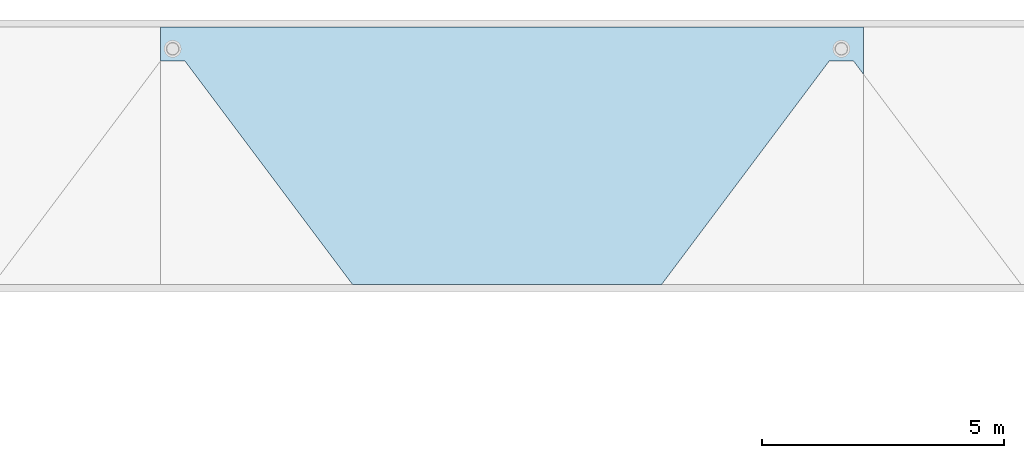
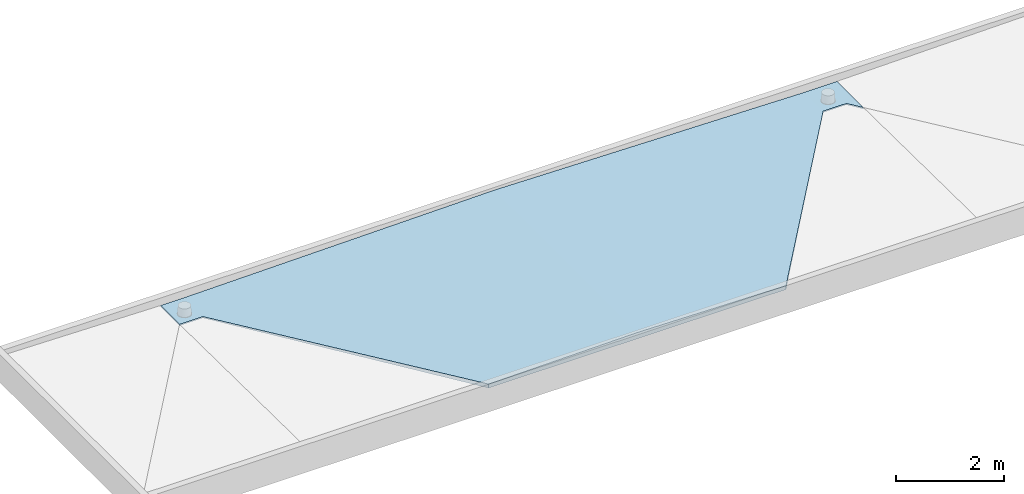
# One storey, part 31 of 33: 1 roof.
"""IFC2X3 building model written with IfcOpenShell, lengths in millimetres."""

from ifc_helpers import new_model, entity, si_unit, converted_unit, derived_unit, direction, frame, origin, place, context, subcontext, project, spatial, faceted_brep, material, element, save


model = new_model("IFC2X3")

# Units and contexts
model_context = context("Model", 3, precision=0.01, world=origin(), true_north=direction((6.12303176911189e-17, 1.0)))
body_context = subcontext(model_context, "Body", "Model", "MODEL_VIEW")
ifc_project = project(units=[si_unit("LENGTHUNIT", "METRE", prefix="MILLI"), si_unit("AREAUNIT", "SQUARE_METRE"), si_unit("VOLUMEUNIT", "CUBIC_METRE"), converted_unit("PLANEANGLEUNIT", "DEGREE", entity("IfcRatioMeasure", 0.0174532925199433), si_unit("PLANEANGLEUNIT", "RADIAN"), dimensions=[0, 0, 0, 0, 0, 0, 0]), si_unit("MASSUNIT", "GRAM", prefix="KILO"), derived_unit("MASSDENSITYUNIT", [(si_unit("MASSUNIT", "GRAM", prefix="KILO"), 1), (si_unit("LENGTHUNIT", "METRE"), -3)]), si_unit("TIMEUNIT", "SECOND"), si_unit("FREQUENCYUNIT", "HERTZ"), si_unit("THERMODYNAMICTEMPERATUREUNIT", "DEGREE_CELSIUS"), derived_unit("THERMALTRANSMITTANCEUNIT", [(si_unit("MASSUNIT", "GRAM", prefix="KILO"), 1), (si_unit("THERMODYNAMICTEMPERATUREUNIT", "KELVIN"), -1), (si_unit("TIMEUNIT", "SECOND"), -3)]), derived_unit("VOLUMETRICFLOWRATEUNIT", [(si_unit("LENGTHUNIT", "METRE"), 3), (si_unit("TIMEUNIT", "SECOND"), -1)]), si_unit("ELECTRICCURRENTUNIT", "AMPERE"), si_unit("ELECTRICVOLTAGEUNIT", "VOLT"), si_unit("POWERUNIT", "WATT"), si_unit("FORCEUNIT", "NEWTON", prefix="KILO"), si_unit("ILLUMINANCEUNIT", "LUX"), si_unit("LUMINOUSFLUXUNIT", "LUMEN"), si_unit("LUMINOUSINTENSITYUNIT", "CANDELA"), derived_unit("USERDEFINED", [(si_unit("MASSUNIT", "GRAM", prefix="KILO"), -1), (si_unit("LENGTHUNIT", "METRE"), -2), (si_unit("TIMEUNIT", "SECOND"), 3), (si_unit("LUMINOUSFLUXUNIT", "LUMEN"), 1)]), derived_unit("LINEARVELOCITYUNIT", [(si_unit("LENGTHUNIT", "METRE"), 1), (si_unit("TIMEUNIT", "SECOND"), -1)]), si_unit("PRESSUREUNIT", "PASCAL"), derived_unit("USERDEFINED", [(si_unit("LENGTHUNIT", "METRE"), -2), (si_unit("MASSUNIT", "GRAM", prefix="KILO"), 1), (si_unit("TIMEUNIT", "SECOND"), -2)])], contexts=[model_context])

# Site, building, storey
site_placement = place(None, origin())
site = spatial("IfcSite", under=ifc_project, at=site_placement, Name="Default", CompositionType="ELEMENT")
building_placement = place(site_placement, origin())
building = spatial("IfcBuilding", under=site, at=building_placement, CompositionType="ELEMENT")
storey_placement = place(building_placement, frame((0.0, 0.0, 4000.0)))
storey = spatial("IfcBuildingStorey", under=building, at=storey_placement, Name="2. KORRUS", CompositionType="ELEMENT", Elevation=4000.0)

# Roof
ifc_material = material(Name="Soojusisolatsioon EPS")
roof_placement = place(storey_placement, frame((-13100.2336642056, 35439.9994344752, -200.0)))
element("IfcRoof", 1, at=roof_placement, inside=storey, material=ifc_material, Name="Basic Roof:varjualune_pvc-eps", ObjectType="Basic Roof:varjualune_pvc-eps", ShapeType="NOTDEFINED", context=body_context, shape_type="Brep", body=[
    faceted_brep([(0.0, 5320.0, 0.0), (14499.9984774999, 5320.0, 0.0), (14499.9984774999, 4341.67358227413, 0.0), (14295.0036642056, 4615.0, 0.0), (13795.0036642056, 4615.0, 0.0), (10333.7536642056, 0.0, 0.0), (3961.58898022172, 0.0, 0.0), (500.0, 4615.45197362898, 0.0), (0.0, 4615.45197362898, 0.0), (0.0, 5320.0, 30.0), (499.999303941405, 5320.0, 30.0), (7147.50148407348, 5320.0, 141.0), (13795.0036642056, 5320.0, 30.0), (14295.0036642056, 5320.0, 30.0), (14499.9984774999, 5320.0, 33.1999999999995), (0.0, 4615.45197362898, 30.0), (10333.7536642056, 0.0, 87.7959569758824), (7147.50148407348, 0.0, 141.0), (3961.58898022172, 0.0, 87.8016288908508), (14499.9984774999, 4341.67358227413, 33.1999999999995), (499.999303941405, 4615.45197362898, 30.0), (14295.0036642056, 4615.0, 30.0), (499.999749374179, 4615.45230779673, 30.0000074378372), (13795.0036642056, 4615.0, 30.0)], [[[0, 1, 2, 3, 4, 5, 6, 7, 8]], [[1, 0, 9, 10, 11, 12, 13, 14]], [[9, 0, 8, 15]], [[6, 5, 16, 17, 18]], [[1, 14, 19, 2]], [[10, 9, 15, 20]], [[14, 13, 21, 19]], [[17, 11, 10, 22, 18]], [[11, 17, 16, 23, 12]], [[13, 12, 23, 21]], [[7, 20, 15, 8]], [[20, 7, 6, 18]], [[4, 23, 16, 5]], [[21, 3, 2, 19]], [[23, 4, 3, 21]]]),
])

save(model, "model.ifc")
